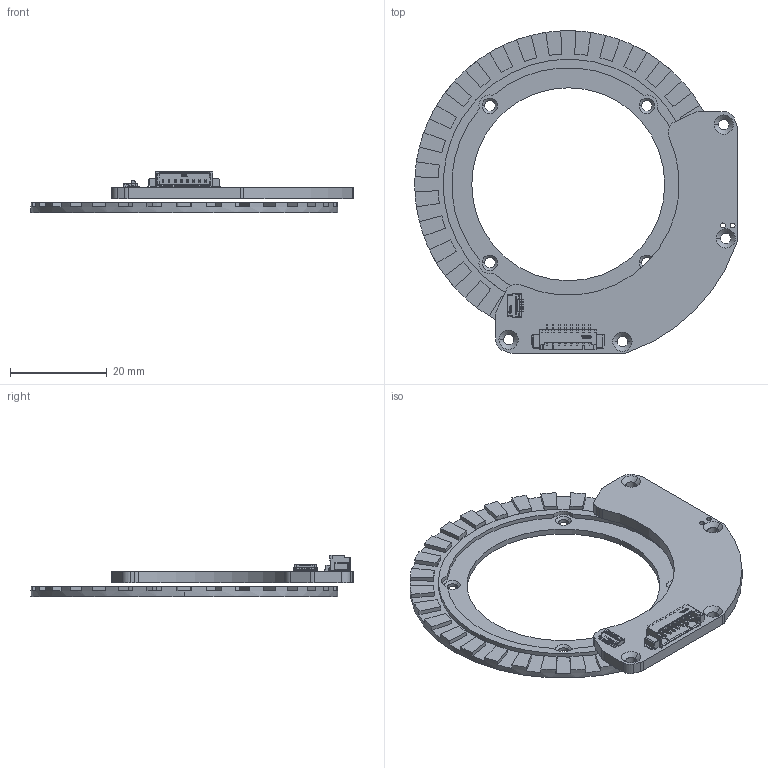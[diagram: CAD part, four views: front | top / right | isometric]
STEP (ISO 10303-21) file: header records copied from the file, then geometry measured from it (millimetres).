
FILE_DESCRIPTION((''),'2;1');
FILE_NAME('PCB_ASM','2024-12-02T',('Cujo'),(''),'PRO/ENGINEER BY PARAMETRIC TECHNOLOGY CORPORATION, 2017170','PRO/ENGINEER BY PARAMETRIC TECHNOLOGY CORPORATION, 2017170','');
FILE_SCHEMA(('CONFIG_CONTROL_DESIGN'));
Products named in the file (70): BOARD; MANIFOLD_SOLID_BREP_72793; MANIFOLD_SOLID_BREP_72297; MANIFOLD_SOLID_BREP_71765; MANIFOLD_SOLID_BREP_71351; MANIFOLD_SOLID_BREP_70808; MANIFOLD_SOLID_BREP_69983; MANIFOLD_SOLID_BREP_69151; MANIFOLD_SOLID_BREP_68737; MANIFOLD_SOLID_BREP_68241; MANIFOLD_SOLID_BREP_67709; MANIFOLD_SOLID_BREP_67295; MANIFOLD_SOLID_BREP_66743; MANIFOLD_SOLID_BREP_66527; MANIFOLD_SOLID_BREP_48799; MANIFOLD_SOLID_BREP_47766; MANIFOLD_SOLID_BREP_46733; CN1_ASM; CN3_ASM; MANIFOLD_SOLID_BREP_191683; MANIFOLD_SOLID_BREP_191187; MANIFOLD_SOLID_BREP_190655; MANIFOLD_SOLID_BREP_190241; MANIFOLD_SOLID_BREP_189698; MANIFOLD_SOLID_BREP_188873; MANIFOLD_SOLID_BREP_188041; MANIFOLD_SOLID_BREP_187627; MANIFOLD_SOLID_BREP_187131; MANIFOLD_SOLID_BREP_186599; MANIFOLD_SOLID_BREP_186185; MANIFOLD_SOLID_BREP_185633; MANIFOLD_SOLID_BREP_185417; MANIFOLD_SOLID_BREP_185265; MANIFOLD_SOLID_BREP_185113; MANIFOLD_SOLID_BREP_184961; MANIFOLD_SOLID_BREP_184809; MANIFOLD_SOLID_BREP_184657; MANIFOLD_SOLID_BREP_184472; MANIFOLD_SOLID_BREP_184287; MANIFOLD_SOLID_BREP_184102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
Assembly tree (69 placements, depth 4):
  PCB_ASM
    BOARD
    CN3_ASM
      CN1_ASM
        MANIFOLD_SOLID_BREP_72793
        MANIFOLD_SOLID_BREP_72297
        MANIFOLD_SOLID_BREP_71765
        MANIFOLD_SOLID_BREP_71351
        MANIFOLD_SOLID_BREP_70808
        MANIFOLD_SOLID_BREP_69983
        MANIFOLD_SOLID_BREP_69151
        MANIFOLD_SOLID_BREP_68737
        MANIFOLD_SOLID_BREP_68241
        MANIFOLD_SOLID_BREP_67709
        MANIFOLD_SOLID_BREP_67295
        MANIFOLD_SOLID_BREP_66743
        MANIFOLD_SOLID_BREP_66527
        MANIFOLD_SOLID_BREP_48799
        MANIFOLD_SOLID_BREP_47766
        MANIFOLD_SOLID_BREP_46733
    FPC3_ASM
      FPC1_ASM
        MANIFOLD_SOLID_BREP_191683
        MANIFOLD_SOLID_BREP_191187
        MANIFOLD_SOLID_BREP_190655
        MANIFOLD_SOLID_BREP_190241
        MANIFOLD_SOLID_BREP_189698
        MANIFOLD_SOLID_BREP_188873
        MANIFOLD_SOLID_BREP_188041
        MANIFOLD_SOLID_BREP_187627
        MANIFOLD_SOLID_BREP_187131
        MANIFOLD_SOLID_BREP_186599
        MANIFOLD_SOLID_BREP_186185
        MANIFOLD_SOLID_BREP_185633
        MANIFOLD_SOLID_BREP_185417
        MANIFOLD_SOLID_BREP_185265
        MANIFOLD_SOLID_BREP_185113
        MANIFOLD_SOLID_BREP_184961
        MANIFOLD_SOLID_BREP_184809
        MANIFOLD_SOLID_BREP_184657
        MANIFOLD_SOLID_BREP_184472
        MANIFOLD_SOLID_BREP_184287
        MANIFOLD_SOLID_BREP_184102
        MANIFOLD_SOLID_BREP_183917
        MANIFOLD_SOLID_BREP_183732
        MANIFOLD_SOLID_BREP_183582
        MANIFOLD_SOLID_BREP_183432
        MANIFOLD_SOLID_BREP_183282
        MANIFOLD_SOLID_BREP_183132
        MANIFOLD_SOLID_BREP_182982
        MANIFOLD_SOLID_BREP_182826
        MANIFOLD_SOLID_BREP_182670
        MANIFOLD_SOLID_BREP_182514
        MANIFOLD_SOLID_BREP_182358
        MANIFOLD_SOLID_BREP_182202
        MANIFOLD_SOLID_BREP_182052
        MANIFOLD_SOLID_BREP_181902
        MANIFOLD_SOLID_BREP_181752
        MANIFOLD_SOLID_BREP_181602
        MANIFOLD_SOLID_BREP_181452
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Bounding box: 66.8 x 66.8 x 8.55 mm (x, y, z)
Volume: 5273 mm3; surface area: 7874.5 mm2
Topology: 65 solids, 65 shells, 1623 faces, 4279 edges, 2819 vertices
Faces by surface type: plane 1110, extrusion 250, cylinder 241, cone 16, bspline 4, sphere 2
Entity records: 73719 total; most frequent: CARTESIAN_POINT 20376, ORIENTED_EDGE 8554, DIRECTION 7364, EDGE_CURVE 4277, VECTOR 3502, LINE 3252, VERTEX_POINT 2819, PRESENTATION_STYLE_ASSIGNMENT 2257
